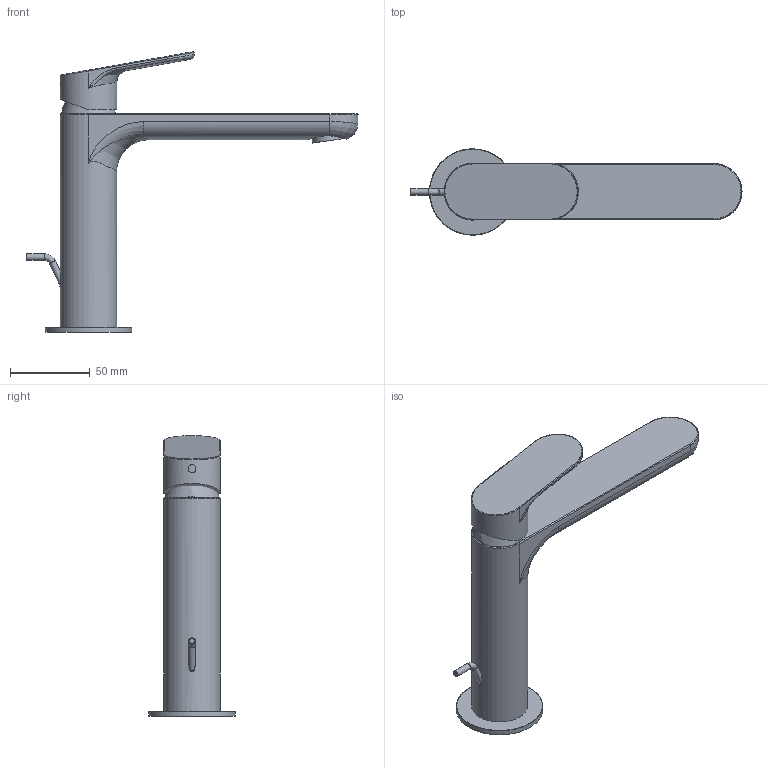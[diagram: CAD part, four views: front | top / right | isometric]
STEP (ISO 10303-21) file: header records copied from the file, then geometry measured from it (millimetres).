
FILE_DESCRIPTION(('STEP AP203'),'2;1');
FILE_NAME('ZKK699.stp','2019-05-17T11:18:23',(''),(''),'2015.2.119','THINKDESIGN','');
FILE_SCHEMA(('CONFIG_CONTROL_DESIGN'));
Length unit declared in the file: millimetre
Bounding box: 207.73 x 53.95 x 175.59 mm (x, y, z)
Volume: 253635.7 mm3; surface area: 48493.4 mm2
Topology: 5 solids, 5 shells, 79 faces, 200 edges, 138 vertices
Faces by surface type: bspline 33, plane 23, cylinder 23
Full cylindrical faces by diameter (mm): 4 x2, 17 x1, 18.5 x1, 23 x1, 24 x1, 35.2 x1, 35.5 x1
Entity records: 7832 total; most frequent: CARTESIAN_POINT 6162, ORIENTED_EDGE 342, DIRECTION 203, EDGE_CURVE 171, VERTEX_POINT 113, B_SPLINE_CURVE_WITH_KNOTS 85, AXIS2_PLACEMENT_3D 80, EDGE_LOOP 80
